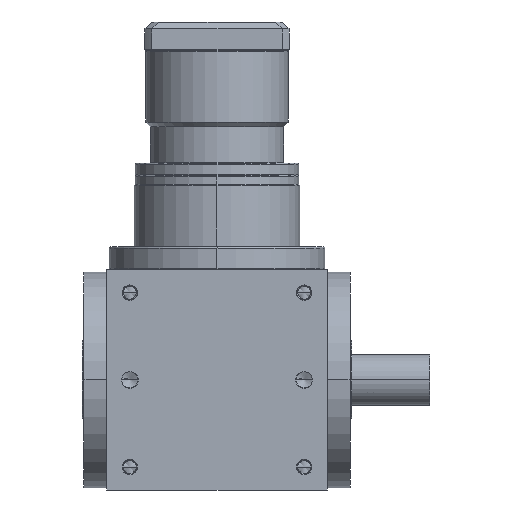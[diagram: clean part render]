
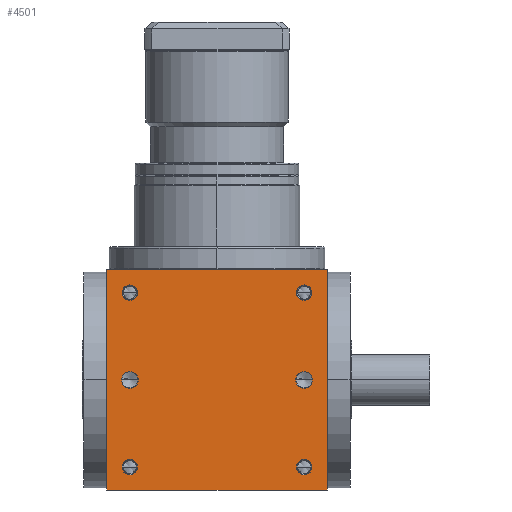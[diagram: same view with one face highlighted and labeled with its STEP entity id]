
A CAD part, front view. The second image highlights one B-rep face of the part: STEP entity #4501.
In plain terms, the highlighted planar face has unit normal (0, -1, 0).
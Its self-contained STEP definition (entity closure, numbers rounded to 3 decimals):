
#5=DIRECTION('',(1.,0.,0.));
#6=VECTOR('',#5,240.);
#7=CARTESIAN_POINT('',(-120.,-120.,-120.));
#8=LINE('',#7,#6);
#155=DIRECTION('',(0.,0.,1.));
#156=VECTOR('',#155,240.);
#157=CARTESIAN_POINT('',(120.,-120.,-120.));
#158=LINE('',#157,#156);
#209=DIRECTION('',(0.,0.,1.));
#210=VECTOR('',#209,240.);
#211=CARTESIAN_POINT('',(-120.,-120.,-120.));
#212=LINE('',#211,#210);
#213=CARTESIAN_POINT('',(95.,-120.,95.));
#214=DIRECTION('',(0.,1.,0.));
#215=DIRECTION('',(-1.,0.,0.));
#216=AXIS2_PLACEMENT_3D('',#213,#214,#215);
#218=CARTESIAN_POINT('',(95.,-120.,95.));
#219=DIRECTION('',(0.,1.,0.));
#220=DIRECTION('',(1.,0.,0.));
#221=AXIS2_PLACEMENT_3D('',#218,#219,#220);
#223=CARTESIAN_POINT('',(-95.,-120.,95.));
#224=DIRECTION('',(0.,1.,0.));
#225=DIRECTION('',(-1.,0.,0.));
#226=AXIS2_PLACEMENT_3D('',#223,#224,#225);
#228=CARTESIAN_POINT('',(-95.,-120.,95.));
#229=DIRECTION('',(0.,1.,0.));
#230=DIRECTION('',(1.,0.,0.));
#231=AXIS2_PLACEMENT_3D('',#228,#229,#230);
#233=CARTESIAN_POINT('',(95.,-120.,-95.));
#234=DIRECTION('',(0.,1.,0.));
#235=DIRECTION('',(-1.,0.,0.));
#236=AXIS2_PLACEMENT_3D('',#233,#234,#235);
#238=CARTESIAN_POINT('',(95.,-120.,-95.));
#239=DIRECTION('',(0.,1.,0.));
#240=DIRECTION('',(1.,0.,0.));
#241=AXIS2_PLACEMENT_3D('',#238,#239,#240);
#243=CARTESIAN_POINT('',(-95.,-120.,-95.));
#244=DIRECTION('',(0.,1.,0.));
#245=DIRECTION('',(-1.,0.,0.));
#246=AXIS2_PLACEMENT_3D('',#243,#244,#245);
#248=CARTESIAN_POINT('',(-95.,-120.,-95.));
#249=DIRECTION('',(0.,1.,0.));
#250=DIRECTION('',(1.,0.,0.));
#251=AXIS2_PLACEMENT_3D('',#248,#249,#250);
#253=CARTESIAN_POINT('',(-95.,-120.,0.));
#254=DIRECTION('',(0.,1.,0.));
#255=DIRECTION('',(1.,0.,0.));
#256=AXIS2_PLACEMENT_3D('',#253,#254,#255);
#258=CARTESIAN_POINT('',(-95.,-120.,0.));
#259=DIRECTION('',(0.,1.,0.));
#260=DIRECTION('',(-1.,0.,0.));
#261=AXIS2_PLACEMENT_3D('',#258,#259,#260);
#263=CARTESIAN_POINT('',(95.,-120.,0.));
#264=DIRECTION('',(0.,1.,0.));
#265=DIRECTION('',(1.,0.,0.));
#266=AXIS2_PLACEMENT_3D('',#263,#264,#265);
#268=CARTESIAN_POINT('',(95.,-120.,0.));
#269=DIRECTION('',(0.,1.,0.));
#270=DIRECTION('',(-1.,0.,0.));
#271=AXIS2_PLACEMENT_3D('',#268,#269,#270);
#285=DIRECTION('',(1.,0.,0.));
#286=VECTOR('',#285,240.);
#287=CARTESIAN_POINT('',(-120.,-120.,120.));
#288=LINE('',#287,#286);
#3602=CARTESIAN_POINT('',(-120.,-120.,-120.));
#3604=VERTEX_POINT('',#3602);
#3605=CARTESIAN_POINT('',(120.,-120.,-120.));
#3606=VERTEX_POINT('',#3605);
#3610=CARTESIAN_POINT('',(-120.,-120.,120.));
#3612=VERTEX_POINT('',#3610);
#3613=CARTESIAN_POINT('',(120.,-120.,120.));
#3614=VERTEX_POINT('',#3613);
#3785=CARTESIAN_POINT('',(86.6,-120.,95.));
#3786=CARTESIAN_POINT('',(103.4,-120.,95.));
#3787=VERTEX_POINT('',#3785);
#3788=VERTEX_POINT('',#3786);
#3793=CARTESIAN_POINT('',(-103.4,-120.,95.));
#3794=CARTESIAN_POINT('',(-86.6,-120.,95.));
#3795=VERTEX_POINT('',#3793);
#3796=VERTEX_POINT('',#3794);
#3801=CARTESIAN_POINT('',(86.6,-120.,-95.));
#3802=CARTESIAN_POINT('',(103.4,-120.,-95.));
#3803=VERTEX_POINT('',#3801);
#3804=VERTEX_POINT('',#3802);
#3809=CARTESIAN_POINT('',(-103.4,-120.,-95.));
#3810=CARTESIAN_POINT('',(-86.6,-120.,-95.));
#3811=VERTEX_POINT('',#3809);
#3812=VERTEX_POINT('',#3810);
#4133=CARTESIAN_POINT('',(-85.95,-120.,
0.));
#4134=CARTESIAN_POINT('',(-104.05,-120.,
0.));
#4135=VERTEX_POINT('',#4133);
#4136=VERTEX_POINT('',#4134);
#4141=CARTESIAN_POINT('',(104.05,-120.,0.));
#4142=CARTESIAN_POINT('',(85.95,-120.,0.));
#4143=VERTEX_POINT('',#4141);
#4144=VERTEX_POINT('',#4142);
#4453=CARTESIAN_POINT('',(-120.,-120.,-120.));
#4454=DIRECTION('',(0.,-1.,0.));
#4455=DIRECTION('',(1.,0.,0.));
#4456=AXIS2_PLACEMENT_3D('',#4453,#4454,#4455);
#4457=PLANE('',#4456);
#4458=ORIENTED_EDGE('',*,*,#4293,.F.);
#4459=ORIENTED_EDGE('',*,*,#4336,.T.);
#4461=ORIENTED_EDGE('',*,*,#4460,.T.);
#4462=ORIENTED_EDGE('',*,*,#4415,.F.);
#4463=EDGE_LOOP('',(#4458,#4459,#4461,#4462));
#4464=FACE_OUTER_BOUND('',#4463,.F.);
#4466=ORIENTED_EDGE('',*,*,#4465,.F.);
#4468=ORIENTED_EDGE('',*,*,#4467,.F.);
#4469=EDGE_LOOP('',(#4466,#4468));
#4470=FACE_BOUND('',#4469,.F.);
#4472=ORIENTED_EDGE('',*,*,#4471,.F.);
#4474=ORIENTED_EDGE('',*,*,#4473,.F.);
#4475=EDGE_LOOP('',(#4472,#4474));
#4476=FACE_BOUND('',#4475,.F.);
#4478=ORIENTED_EDGE('',*,*,#4477,.F.);
#4480=ORIENTED_EDGE('',*,*,#4479,.F.);
#4481=EDGE_LOOP('',(#4478,#4480));
#4482=FACE_BOUND('',#4481,.F.);
#4484=ORIENTED_EDGE('',*,*,#4483,.F.);
#4486=ORIENTED_EDGE('',*,*,#4485,.F.);
#4487=EDGE_LOOP('',(#4484,#4486));
#4488=FACE_BOUND('',#4487,.F.);
#4490=ORIENTED_EDGE('',*,*,#4489,.F.);
#4492=ORIENTED_EDGE('',*,*,#4491,.F.);
#4493=EDGE_LOOP('',(#4490,#4492));
#4494=FACE_BOUND('',#4493,.F.);
#4496=ORIENTED_EDGE('',*,*,#4495,.F.);
#4498=ORIENTED_EDGE('',*,*,#4497,.F.);
#4499=EDGE_LOOP('',(#4496,#4498));
#4500=FACE_BOUND('',#4499,.F.);
#4501=ADVANCED_FACE('',(#4464,#4470,#4476,#4482,#4488,#4494,#4500),#4457,.T.);
#217=CIRCLE('',#216,8.4);
#222=CIRCLE('',#221,8.4);
#227=CIRCLE('',#226,8.4);
#232=CIRCLE('',#231,8.4);
#237=CIRCLE('',#236,8.4);
#242=CIRCLE('',#241,8.4);
#247=CIRCLE('',#246,8.4);
#252=CIRCLE('',#251,8.4);
#257=CIRCLE('',#256,9.05);
#262=CIRCLE('',#261,9.05);
#267=CIRCLE('',#266,9.05);
#272=CIRCLE('',#271,9.05);
#4293=EDGE_CURVE('',#3604,#3606,#8,.T.);
#4336=EDGE_CURVE('',#3604,#3612,#212,.T.);
#4415=EDGE_CURVE('',#3606,#3614,#158,.T.);
#4460=EDGE_CURVE('',#3612,#3614,#288,.T.);
#4465=EDGE_CURVE('',#3787,#3788,#217,.T.);
#4467=EDGE_CURVE('',#3788,#3787,#222,.T.);
#4471=EDGE_CURVE('',#3795,#3796,#227,.T.);
#4473=EDGE_CURVE('',#3796,#3795,#232,.T.);
#4477=EDGE_CURVE('',#3803,#3804,#237,.T.);
#4479=EDGE_CURVE('',#3804,#3803,#242,.T.);
#4483=EDGE_CURVE('',#3811,#3812,#247,.T.);
#4485=EDGE_CURVE('',#3812,#3811,#252,.T.);
#4489=EDGE_CURVE('',#4135,#4136,#257,.T.);
#4491=EDGE_CURVE('',#4136,#4135,#262,.T.);
#4495=EDGE_CURVE('',#4143,#4144,#267,.T.);
#4497=EDGE_CURVE('',#4144,#4143,#272,.T.);
